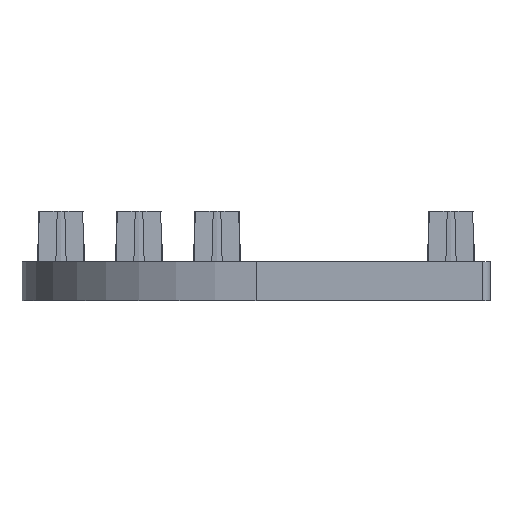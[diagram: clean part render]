
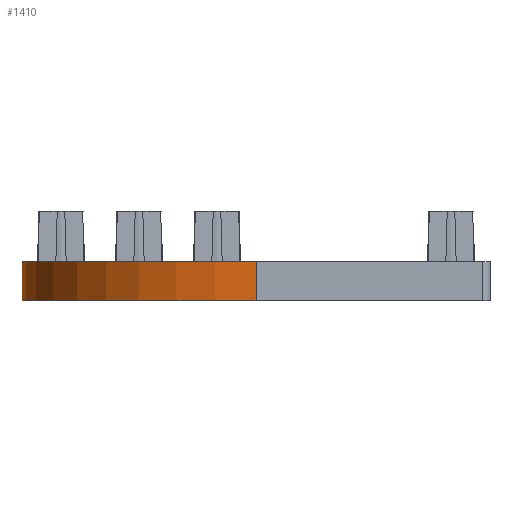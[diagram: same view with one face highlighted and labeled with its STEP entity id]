
A CAD part, front view. The second image highlights one B-rep face of the part: STEP entity #1410.
In plain terms, the highlighted cylindrical face has radius 30 mm (diameter 60 mm), a partial arc.
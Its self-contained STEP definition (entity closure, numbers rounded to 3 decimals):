
#58 = AXIS2_PLACEMENT_3D ( 'NONE', #1728, #277, #2226 ) ;
#153 = CARTESIAN_POINT ( 'NONE',  ( -30., 0., 0. ) ) ;
#192 = VERTEX_POINT ( 'NONE', #2019 ) ;
#277 = DIRECTION ( 'NONE',  ( 0., 0., 1. ) ) ;
#308 = ORIENTED_EDGE ( 'NONE', *, *, #513, .F. ) ;
#469 = CARTESIAN_POINT ( 'NONE',  ( 0., -30., 5. ) ) ;
#513 = EDGE_CURVE ( 'NONE', #192, #612, #2017, .T. ) ;
#607 = ORIENTED_EDGE ( 'NONE', *, *, #2320, .F. ) ;
#612 = VERTEX_POINT ( 'NONE', #469 ) ;
#720 = VERTEX_POINT ( 'NONE', #153 ) ;
#784 = VECTOR ( 'NONE', #995, 1000. ) ;
#929 = EDGE_CURVE ( 'NONE', #612, #1224, #2518, .T. ) ;
#955 = ORIENTED_EDGE ( 'NONE', *, *, #929, .F. ) ;
#980 = CARTESIAN_POINT ( 'NONE',  ( -30., 0., 0. ) ) ;
#995 = DIRECTION ( 'NONE',  ( 0., 0., -1. ) ) ;
#998 = DIRECTION ( 'NONE',  ( 1., 0., 0. ) ) ;
#1079 = FACE_OUTER_BOUND ( 'NONE', #2482, .T. ) ;
#1220 = AXIS2_PLACEMENT_3D ( 'NONE', #1581, #3051, #2561 ) ;
#1224 = VERTEX_POINT ( 'NONE', #2911 ) ;
#1236 = LINE ( 'NONE', #980, #2029 ) ;
#1267 = DIRECTION ( 'NONE',  ( 0., 0., -1. ) ) ;
#1410 = ADVANCED_FACE ( 'NONE', ( #1079 ), #2318, .T. ) ;
#1465 = DIRECTION ( 'NONE',  ( 0., 0., 1. ) ) ;
#1581 = CARTESIAN_POINT ( 'NONE',  ( 0., 0., 0. ) ) ;
#1728 = CARTESIAN_POINT ( 'NONE',  ( 0., 0., 5. ) ) ;
#1998 = EDGE_CURVE ( 'NONE', #1224, #720, #2493, .T. ) ;
#2017 = CIRCLE ( 'NONE', #58, 30. ) ;
#2019 = CARTESIAN_POINT ( 'NONE',  ( -30., 0., 5. ) ) ;
#2029 = VECTOR ( 'NONE', #1465, 1000. ) ;
#2137 = AXIS2_PLACEMENT_3D ( 'NONE', #2463, #1267, #998 ) ;
#2226 = DIRECTION ( 'NONE',  ( 1., 0., 0. ) ) ;
#2318 = CYLINDRICAL_SURFACE ( 'NONE', #1220, 30. ) ;
#2320 = EDGE_CURVE ( 'NONE', #720, #192, #1236, .T. ) ;
#2463 = CARTESIAN_POINT ( 'NONE',  ( 0., 0., 0. ) ) ;
#2482 = EDGE_LOOP ( 'NONE', ( #3180, #955, #308, #607 ) ) ;
#2493 = CIRCLE ( 'NONE', #2137, 30. ) ;
#2518 = LINE ( 'NONE', #2715, #784 ) ;
#2561 = DIRECTION ( 'NONE',  ( 1., 0., 0. ) ) ;
#2715 = CARTESIAN_POINT ( 'NONE',  ( 0., -30., 0. ) ) ;
#2911 = CARTESIAN_POINT ( 'NONE',  ( 0., -30., 0. ) ) ;
#3051 = DIRECTION ( 'NONE',  ( 0., 0., 1. ) ) ;
#3180 = ORIENTED_EDGE ( 'NONE', *, *, #1998, .F. ) ;
